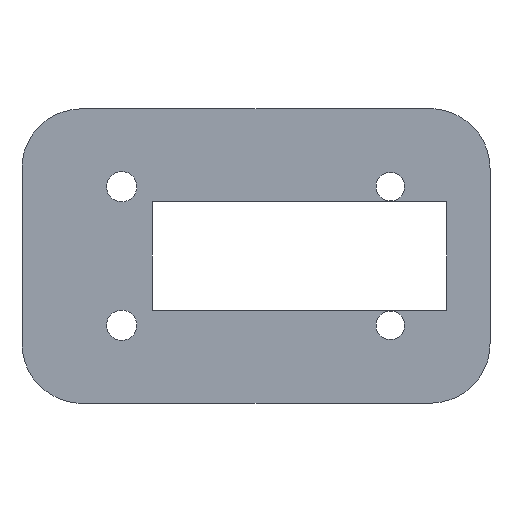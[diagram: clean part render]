
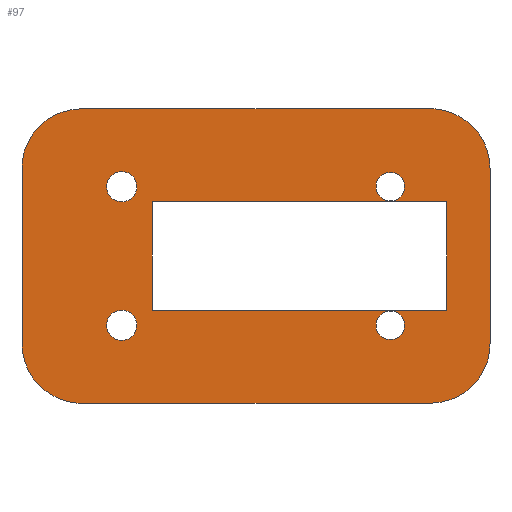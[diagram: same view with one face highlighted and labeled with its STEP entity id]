
A CAD part, top view. The second image highlights one B-rep face of the part: STEP entity #97.
In plain terms, the highlighted planar face has unit normal (0, 0, 1).
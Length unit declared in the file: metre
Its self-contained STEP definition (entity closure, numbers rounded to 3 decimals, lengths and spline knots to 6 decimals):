
#12=B_SPLINE_CURVE_WITH_KNOTS('',3,(#153,#154,#155,#156,#157,#158,#159),
 .UNSPECIFIED.,.F.,.F.,(4,1,1,1,4),(336.268194,358.408172,380.548149,
402.688127,424.828104),.UNSPECIFIED.);
#13=B_SPLINE_CURVE_WITH_KNOTS('',3,(#163,#164,#165,#166,#167,#168,#169),
 .UNSPECIFIED.,.F.,.F.,(4,1,1,1,4),(295.171896,317.311873,339.451851,
361.591828,383.731806),.UNSPECIFIED.);
#14=B_SPLINE_CURVE_WITH_KNOTS('',3,(#173,#174,#175,#176,#177,#178,#179),
 .UNSPECIFIED.,.F.,.F.,(4,1,1,1,4),(336.268194,358.408172,380.548149,
402.688127,424.828104),.UNSPECIFIED.);
#15=B_SPLINE_CURVE_WITH_KNOTS('',3,(#183,#184,#185,#186,#187,#188,#189),
 .UNSPECIFIED.,.F.,.F.,(4,1,1,1,4),(295.171896,317.311873,339.451851,
361.591828,383.731806),.UNSPECIFIED.);
#16=CIRCLE('',#112,0.00175);
#17=CIRCLE('',#113,0.00165);
#18=CIRCLE('',#114,0.00175);
#19=CIRCLE('',#115,0.00165);
#20=ORIENTED_EDGE('',*,*,#36,.T.);
#21=ORIENTED_EDGE('',*,*,#37,.T.);
#22=ORIENTED_EDGE('',*,*,#38,.T.);
#23=ORIENTED_EDGE('',*,*,#39,.T.);
#24=ORIENTED_EDGE('',*,*,#40,.T.);
#25=ORIENTED_EDGE('',*,*,#41,.T.);
#26=ORIENTED_EDGE('',*,*,#42,.F.);
#27=ORIENTED_EDGE('',*,*,#43,.F.);
#28=ORIENTED_EDGE('',*,*,#44,.F.);
#29=ORIENTED_EDGE('',*,*,#45,.F.);
#30=ORIENTED_EDGE('',*,*,#46,.F.);
#31=ORIENTED_EDGE('',*,*,#47,.F.);
#32=ORIENTED_EDGE('',*,*,#48,.F.);
#33=ORIENTED_EDGE('',*,*,#49,.F.);
#34=ORIENTED_EDGE('',*,*,#50,.T.);
#35=ORIENTED_EDGE('',*,*,#51,.T.);
#36=EDGE_CURVE('',#52,#53,#68,.F.);
#37=EDGE_CURVE('',#53,#54,#69,.T.);
#38=EDGE_CURVE('',#54,#55,#70,.T.);
#39=EDGE_CURVE('',#55,#52,#71,.F.);
#40=EDGE_CURVE('',#56,#56,#16,.T.);
#41=EDGE_CURVE('',#57,#57,#17,.T.);
#42=EDGE_CURVE('',#58,#59,#72,.T.);
#43=EDGE_CURVE('',#60,#58,#12,.F.);
#44=EDGE_CURVE('',#61,#60,#73,.T.);
#45=EDGE_CURVE('',#62,#61,#13,.F.);
#46=EDGE_CURVE('',#63,#62,#74,.F.);
#47=EDGE_CURVE('',#64,#63,#14,.F.);
#48=EDGE_CURVE('',#65,#64,#75,.F.);
#49=EDGE_CURVE('',#59,#65,#15,.F.);
#50=EDGE_CURVE('',#66,#66,#18,.T.);
#51=EDGE_CURVE('',#67,#67,#19,.T.);
#52=VERTEX_POINT('',#139);
#53=VERTEX_POINT('',#140);
#54=VERTEX_POINT('',#142);
#55=VERTEX_POINT('',#144);
#56=VERTEX_POINT('',#147);
#57=VERTEX_POINT('',#149);
#58=VERTEX_POINT('',#151);
#59=VERTEX_POINT('',#152);
#60=VERTEX_POINT('',#160);
#61=VERTEX_POINT('',#162);
#62=VERTEX_POINT('',#170);
#63=VERTEX_POINT('',#172);
#64=VERTEX_POINT('',#180);
#65=VERTEX_POINT('',#182);
#66=VERTEX_POINT('',#191);
#67=VERTEX_POINT('',#193);
#68=LINE('',#138,#76);
#69=LINE('',#141,#77);
#70=LINE('',#143,#78);
#71=LINE('',#145,#79);
#72=LINE('',#150,#80);
#73=LINE('',#161,#81);
#74=LINE('',#171,#82);
#75=LINE('',#181,#83);
#76=VECTOR('',#120,1.);
#77=VECTOR('',#121,1.);
#78=VECTOR('',#122,1.);
#79=VECTOR('',#123,1.);
#80=VECTOR('',#128,1.);
#81=VECTOR('',#129,1.);
#82=VECTOR('',#130,1.);
#83=VECTOR('',#131,1.);
#84=EDGE_LOOP('',(#20,#21,#22,#23));
#85=EDGE_LOOP('',(#24));
#86=EDGE_LOOP('',(#25));
#87=EDGE_LOOP('',(#26,#27,#28,#29,#30,#31,#32,#33));
#88=EDGE_LOOP('',(#34));
#89=EDGE_LOOP('',(#35));
#90=FACE_BOUND('',#84,.T.);
#91=FACE_BOUND('',#85,.T.);
#92=FACE_BOUND('',#86,.T.);
#93=FACE_BOUND('',#87,.T.);
#94=FACE_BOUND('',#88,.T.);
#95=FACE_BOUND('',#89,.T.);
#96=PLANE('',#111);
#97=ADVANCED_FACE('',(#90,#91,#92,#93,#94,#95),#96,.T.);
#111=AXIS2_PLACEMENT_3D('',#137,#118,#119);
#112=AXIS2_PLACEMENT_3D('',#146,#124,#125);
#113=AXIS2_PLACEMENT_3D('',#148,#126,#127);
#114=AXIS2_PLACEMENT_3D('',#190,#132,#133);
#115=AXIS2_PLACEMENT_3D('',#192,#134,#135);
#118=DIRECTION('',(0.,0.,1.));
#119=DIRECTION('',(1.,0.,0.));
#120=DIRECTION('',(1.,0.,0.));
#121=DIRECTION('',(0.,1.,0.));
#122=DIRECTION('',(1.,0.,0.));
#123=DIRECTION('',(0.,1.,0.));
#124=DIRECTION('',(0.,0.,-1.));
#125=DIRECTION('',(-1.,0.,0.));
#126=DIRECTION('',(0.,0.,-1.));
#127=DIRECTION('',(-1.,0.,0.));
#128=DIRECTION('',(1.,0.,0.));
#129=DIRECTION('',(0.,1.,0.));
#130=DIRECTION('',(1.,0.,0.));
#131=DIRECTION('',(0.,1.,0.));
#132=DIRECTION('',(0.,0.,-1.));
#133=DIRECTION('',(-1.,0.,0.));
#134=DIRECTION('',(0.,0.,-1.));
#135=DIRECTION('',(-1.,0.,0.));
#137=CARTESIAN_POINT('',(0.008,0.023,0.032));
#138=CARTESIAN_POINT('',(0.0215,0.00825,0.032));
#139=CARTESIAN_POINT('',(0.0435,0.00825,0.032));
#140=CARTESIAN_POINT('',(0.0095,0.00825,0.032));
#141=CARTESIAN_POINT('',(0.0095,0.0145,0.032));
#142=CARTESIAN_POINT('',(0.0095,0.02075,0.032));
#143=CARTESIAN_POINT('',(0.0215,0.02075,0.032));
#144=CARTESIAN_POINT('',(0.0435,0.02075,0.032));
#145=CARTESIAN_POINT('',(0.0435,0.0145,0.032));
#146=CARTESIAN_POINT('',(0.006,0.0065,0.032));
#147=CARTESIAN_POINT('',(0.00425,0.0065,0.032));
#148=CARTESIAN_POINT('',(0.037,0.0065,0.032));
#149=CARTESIAN_POINT('',(0.03535,0.0065,0.032));
#150=CARTESIAN_POINT('',(0.,0.0315,0.032));
#151=CARTESIAN_POINT('',(0.001516,0.0315,0.032));
#152=CARTESIAN_POINT('',(0.041484,0.0315,0.032));
#153=CARTESIAN_POINT('',(0.001516,0.0315,0.032));
#154=CARTESIAN_POINT('',(0.000679,0.0315,0.032));
#155=CARTESIAN_POINT('',(-0.001117,0.031207,0.032));
#156=CARTESIAN_POINT('',(-0.003604,0.029645,0.032));
#157=CARTESIAN_POINT('',(-0.0052,0.027213,0.032));
#158=CARTESIAN_POINT('',(-0.0055,0.025455,0.032));
#159=CARTESIAN_POINT('',(-0.0055,0.024636,0.032));
#160=CARTESIAN_POINT('',(-0.0055,0.024636,0.032));
#161=CARTESIAN_POINT('',(-0.0055,0.,0.032));
#162=CARTESIAN_POINT('',(-0.0055,0.004364,0.032));
#163=CARTESIAN_POINT('',(-0.0055,0.004364,0.032));
#164=CARTESIAN_POINT('',(-0.0055,0.003545,0.032));
#165=CARTESIAN_POINT('',(-0.0052,0.001787,0.032));
#166=CARTESIAN_POINT('',(-0.003604,-0.000645,0.032));
#167=CARTESIAN_POINT('',(-0.001117,-0.002207,0.032));
#168=CARTESIAN_POINT('',(0.000679,-0.0025,0.032));
#169=CARTESIAN_POINT('',(0.001516,-0.0025,0.032));
#170=CARTESIAN_POINT('',(0.001516,-0.0025,0.032));
#171=CARTESIAN_POINT('',(0.043,-0.0025,0.032));
#172=CARTESIAN_POINT('',(0.041484,-0.0025,0.032));
#173=CARTESIAN_POINT('',(0.041484,-0.0025,0.032));
#174=CARTESIAN_POINT('',(0.042321,-0.0025,0.032));
#175=CARTESIAN_POINT('',(0.044117,-0.002207,0.032));
#176=CARTESIAN_POINT('',(0.046604,-0.000645,0.032));
#177=CARTESIAN_POINT('',(0.0482,0.001787,0.032));
#178=CARTESIAN_POINT('',(0.0485,0.003545,0.032));
#179=CARTESIAN_POINT('',(0.0485,0.004364,0.032));
#180=CARTESIAN_POINT('',(0.0485,0.004364,0.032));
#181=CARTESIAN_POINT('',(0.0485,0.029,0.032));
#182=CARTESIAN_POINT('',(0.0485,0.024636,0.032));
#183=CARTESIAN_POINT('',(0.0485,0.024636,0.032));
#184=CARTESIAN_POINT('',(0.0485,0.025455,0.032));
#185=CARTESIAN_POINT('',(0.0482,0.027213,0.032));
#186=CARTESIAN_POINT('',(0.046604,0.029645,0.032));
#187=CARTESIAN_POINT('',(0.044117,0.031207,0.032));
#188=CARTESIAN_POINT('',(0.042321,0.0315,0.032));
#189=CARTESIAN_POINT('',(0.041484,0.0315,0.032));
#190=CARTESIAN_POINT('',(0.006,0.0225,0.032));
#191=CARTESIAN_POINT('',(0.00425,0.0225,0.032));
#192=CARTESIAN_POINT('',(0.037,0.0225,0.032));
#193=CARTESIAN_POINT('',(0.03535,0.0225,0.032));
